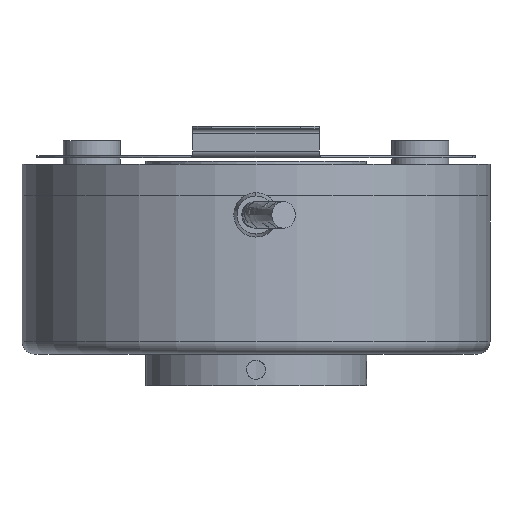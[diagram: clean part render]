
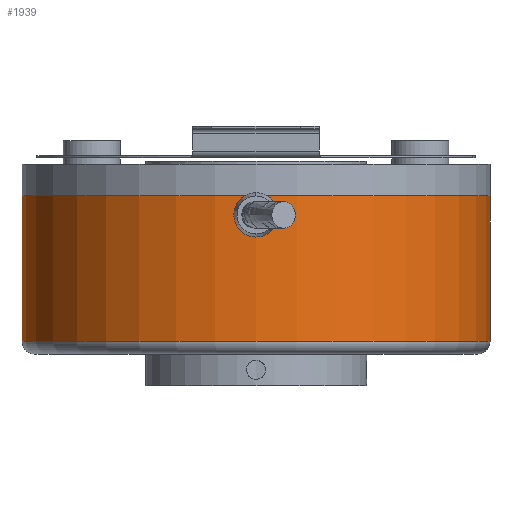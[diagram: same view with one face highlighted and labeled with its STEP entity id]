
A CAD part, front view. The second image highlights one B-rep face of the part: STEP entity #1939.
In plain terms, the highlighted cylindrical face has radius 37 mm (diameter 74 mm), a partial arc.
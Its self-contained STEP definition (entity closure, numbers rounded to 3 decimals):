
#196 = CARTESIAN_POINT ( 'NONE',  ( 0., 0., 0. ) ) ;
#288 = VERTEX_POINT ( 'NONE', #3225 ) ;
#434 = LINE ( 'NONE', #2389, #4163 ) ;
#447 = VERTEX_POINT ( 'NONE', #3649 ) ;
#473 = CYLINDRICAL_SURFACE ( 'NONE', #3581, 37. ) ;
#497 = DIRECTION ( 'NONE',  ( 1., 0., 0. ) ) ;
#823 = CARTESIAN_POINT ( 'NONE',  ( 0., 0., -25. ) ) ;
#917 = FACE_OUTER_BOUND ( 'NONE', #4052, .T. ) ;
#1406 = DIRECTION ( 'NONE',  ( 0., 0., 1. ) ) ;
#1454 = CARTESIAN_POINT ( 'NONE',  ( 0., 0., -23. ) ) ;
#1552 = ORIENTED_EDGE ( 'NONE', *, *, #2083, .T. ) ;
#1637 = VECTOR ( 'NONE', #3449, 1000. ) ;
#1831 = VERTEX_POINT ( 'NONE', #2660 ) ;
#1847 = CIRCLE ( 'NONE', #2422, 37. ) ;
#1899 = DIRECTION ( 'NONE',  ( 0., 0., 1. ) ) ;
#1939 = ADVANCED_FACE ( 'NONE', ( #917 ), #473, .T. ) ;
#2083 = EDGE_CURVE ( 'NONE', #447, #288, #434, .T. ) ;
#2299 = ORIENTED_EDGE ( 'NONE', *, *, #3710, .F. ) ;
#2355 = AXIS2_PLACEMENT_3D ( 'NONE', #1454, #3497, #4189 ) ;
#2360 = ORIENTED_EDGE ( 'NONE', *, *, #2928, .T. ) ;
#2389 = CARTESIAN_POINT ( 'NONE',  ( 37., 0., -25. ) ) ;
#2422 = AXIS2_PLACEMENT_3D ( 'NONE', #196, #1899, #2937 ) ;
#2499 = VERTEX_POINT ( 'NONE', #3229 ) ;
#2540 = ORIENTED_EDGE ( 'NONE', *, *, #3391, .F. ) ;
#2660 = CARTESIAN_POINT ( 'NONE',  ( -37., 0., 0. ) ) ;
#2928 = EDGE_CURVE ( 'NONE', #2499, #447, #4301, .T. ) ;
#2937 = DIRECTION ( 'NONE',  ( 1., 0., 0. ) ) ;
#3225 = CARTESIAN_POINT ( 'NONE',  ( 37., 0., 0. ) ) ;
#3229 = CARTESIAN_POINT ( 'NONE',  ( -37., 0., -23. ) ) ;
#3391 = EDGE_CURVE ( 'NONE', #1831, #288, #1847, .T. ) ;
#3449 = DIRECTION ( 'NONE',  ( 0., 0., 1. ) ) ;
#3497 = DIRECTION ( 'NONE',  ( 0., 0., 1. ) ) ;
#3534 = LINE ( 'NONE', #3802, #1637 ) ;
#3578 = DIRECTION ( 'NONE',  ( 0., 0., 1. ) ) ;
#3581 = AXIS2_PLACEMENT_3D ( 'NONE', #823, #3578, #497 ) ;
#3649 = CARTESIAN_POINT ( 'NONE',  ( 37., 0., -23. ) ) ;
#3710 = EDGE_CURVE ( 'NONE', #2499, #1831, #3534, .T. ) ;
#3802 = CARTESIAN_POINT ( 'NONE',  ( -37., 0., -25. ) ) ;
#4052 = EDGE_LOOP ( 'NONE', ( #2299, #2360, #1552, #2540 ) ) ;
#4163 = VECTOR ( 'NONE', #1406, 1000. ) ;
#4189 = DIRECTION ( 'NONE',  ( 1., 0., 0. ) ) ;
#4301 = CIRCLE ( 'NONE', #2355, 37. ) ;
